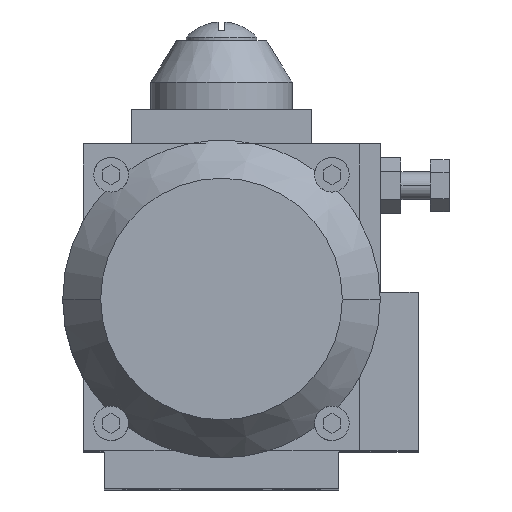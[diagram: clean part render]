
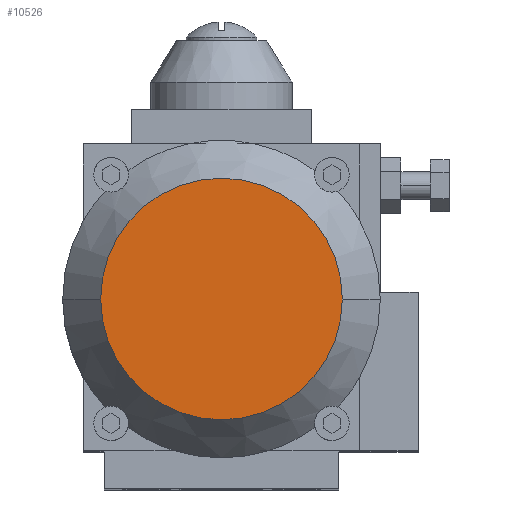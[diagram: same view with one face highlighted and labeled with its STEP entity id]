
A CAD part, top view. The second image highlights one B-rep face of the part: STEP entity #10526.
In plain terms, the highlighted planar face has unit normal (0, 0, 1).
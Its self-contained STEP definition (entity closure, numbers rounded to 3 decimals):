
#9428=CARTESIAN_POINT('',(0.,0.,104.5));
#9429=DIRECTION('',(0.,0.,-1.));
#9430=DIRECTION('',(-1.,0.,0.));
#9431=AXIS2_PLACEMENT_3D('',#9428,#9429,#9430);
#9433=CARTESIAN_POINT('',(0.,0.,104.5));
#9434=DIRECTION('',(0.,0.,-1.));
#9435=DIRECTION('',(1.,0.,0.));
#9436=AXIS2_PLACEMENT_3D('',#9433,#9434,#9435);
#9678=CARTESIAN_POINT('',(-35.,0.,104.5));
#9679=CARTESIAN_POINT('',(35.,0.,104.5));
#9680=VERTEX_POINT('',#9678);
#9681=VERTEX_POINT('',#9679);
#10517=CARTESIAN_POINT('',(0.,0.,104.5));
#10518=DIRECTION('',(0.,0.,1.));
#10519=DIRECTION('',(1.,0.,0.));
#10520=AXIS2_PLACEMENT_3D('',#10517,#10518,#10519);
#10521=PLANE('',#10520);
#10522=ORIENTED_EDGE('',*,*,#10170,.T.);
#10523=ORIENTED_EDGE('',*,*,#10350,.T.);
#10524=EDGE_LOOP('',(#10522,#10523));
#10525=FACE_OUTER_BOUND('',#10524,.F.);
#10526=ADVANCED_FACE('',(#10525),#10521,.T.);
#9432=CIRCLE('',#9431,35.);
#9437=CIRCLE('',#9436,35.);
#10170=EDGE_CURVE('',#9680,#9681,#9432,.T.);
#10350=EDGE_CURVE('',#9681,#9680,#9437,.T.);
